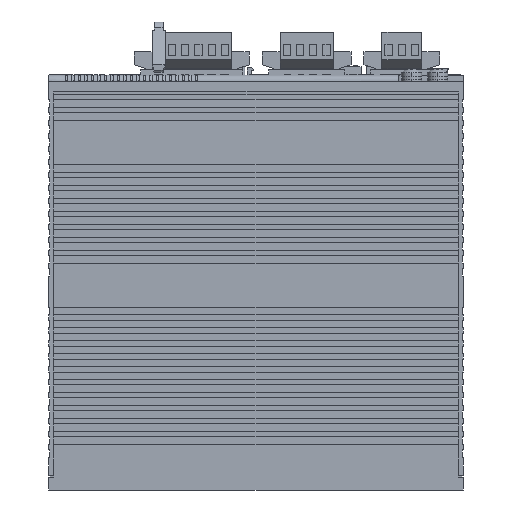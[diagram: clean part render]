
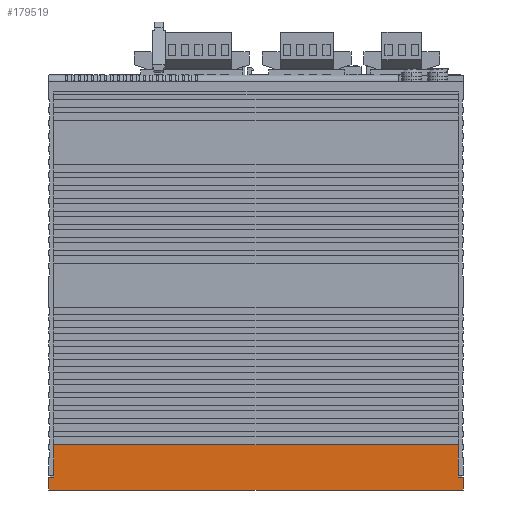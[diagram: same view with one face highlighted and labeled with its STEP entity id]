
A CAD part, left-side view. The second image highlights one B-rep face of the part: STEP entity #179519.
In plain terms, the highlighted planar face has unit normal (-1, 0, 0).
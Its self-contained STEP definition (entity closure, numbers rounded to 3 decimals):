
#104 = EDGE_CURVE ( 'NONE', #145977, #71837, #20181, .T. ) ;
#675 = VECTOR ( 'NONE', #219439, 1000. ) ;
#710 = EDGE_CURVE ( 'NONE', #81122, #100774, #164731, .T. ) ;
#3726 = FACE_OUTER_BOUND ( 'NONE', #70451, .T. ) ;
#3903 = DIRECTION ( 'NONE',  ( 0., 0., 1. ) ) ;
#5584 = DIRECTION ( 'NONE',  ( 0., 0., -1. ) ) ;
#8428 = ORIENTED_EDGE ( 'NONE', *, *, #710, .F. ) ;
#13685 = DIRECTION ( 'NONE',  ( 0., 0., -1. ) ) ;
#18765 = ORIENTED_EDGE ( 'NONE', *, *, #153025, .F. ) ;
#19843 = CARTESIAN_POINT ( 'NONE',  ( -50., 0., 160. ) ) ;
#20181 = LINE ( 'NONE', #162358, #192974 ) ;
#24087 = LINE ( 'NONE', #117281, #196933 ) ;
#25345 = VERTEX_POINT ( 'NONE', #64219 ) ;
#28692 = CARTESIAN_POINT ( 'NONE',  ( -50., -159.5, 5. ) ) ;
#30628 = ORIENTED_EDGE ( 'NONE', *, *, #104, .T. ) ;
#30677 = LINE ( 'NONE', #28692, #214832 ) ;
#37649 = ORIENTED_EDGE ( 'NONE', *, *, #109637, .T. ) ;
#39573 = LINE ( 'NONE', #197705, #45123 ) ;
#45123 = VECTOR ( 'NONE', #142401, 1000. ) ;
#45378 = LINE ( 'NONE', #219108, #156994 ) ;
#54220 = CARTESIAN_POINT ( 'NONE',  ( -50., -160., 0. ) ) ;
#56294 = ORIENTED_EDGE ( 'NONE', *, *, #131429, .F. ) ;
#56340 = DIRECTION ( 'NONE',  ( 0., -1., 0. ) ) ;
#57123 = VERTEX_POINT ( 'NONE', #80671 ) ;
#57528 = CARTESIAN_POINT ( 'NONE',  ( -50., -2., 160. ) ) ;
#64219 = CARTESIAN_POINT ( 'NONE',  ( -50., -2., 17.5 ) ) ;
#64754 = LINE ( 'NONE', #217163, #675 ) ;
#70451 = EDGE_LOOP ( 'NONE', ( #8428, #148981, #179388, #72785, #88295, #37649, #30628, #56294, #205393, #18765 ) ) ;
#71280 = CARTESIAN_POINT ( 'NONE',  ( -50., -158., 17.5 ) ) ;
#71837 = VERTEX_POINT ( 'NONE', #54220 ) ;
#72785 = ORIENTED_EDGE ( 'NONE', *, *, #136625, .F. ) ;
#75930 = DIRECTION ( 'NONE',  ( 0., -1., 0. ) ) ;
#77208 = CARTESIAN_POINT ( 'NONE',  ( -50., -2., 5. ) ) ;
#80671 = CARTESIAN_POINT ( 'NONE',  ( -50., -2., 5.6 ) ) ;
#81122 = VERTEX_POINT ( 'NONE', #71280 ) ;
#81750 = CARTESIAN_POINT ( 'NONE',  ( -50., 0., 5. ) ) ;
#86782 = CARTESIAN_POINT ( 'NONE',  ( -50., -158., 160. ) ) ;
#88295 = ORIENTED_EDGE ( 'NONE', *, *, #93201, .F. ) ;
#93201 = EDGE_CURVE ( 'NONE', #158778, #207036, #24087, .T. ) ;
#100774 = VERTEX_POINT ( 'NONE', #222214 ) ;
#101065 = CARTESIAN_POINT ( 'NONE',  ( -50., -158., 5. ) ) ;
#102757 = EDGE_CURVE ( 'NONE', #138419, #103803, #30677, .T. ) ;
#103803 = VERTEX_POINT ( 'NONE', #197937 ) ;
#105345 = CARTESIAN_POINT ( 'NONE',  ( -50., 0., 0. ) ) ;
#109637 = EDGE_CURVE ( 'NONE', #158778, #145977, #64754, .T. ) ;
#116532 = LINE ( 'NONE', #217882, #186269 ) ;
#117281 = CARTESIAN_POINT ( 'NONE',  ( -50., 0., 5. ) ) ;
#129668 = DIRECTION ( 'NONE',  ( 1., 0., 0. ) ) ;
#131429 = EDGE_CURVE ( 'NONE', #103803, #71837, #39573, .T. ) ;
#135236 = DIRECTION ( 'NONE',  ( 0., -1., 0. ) ) ;
#136625 = EDGE_CURVE ( 'NONE', #207036, #57123, #229969, .T. ) ;
#138419 = VERTEX_POINT ( 'NONE', #101065 ) ;
#142401 = DIRECTION ( 'NONE',  ( 0., 0., -1. ) ) ;
#145977 = VERTEX_POINT ( 'NONE', #105345 ) ;
#148981 = ORIENTED_EDGE ( 'NONE', *, *, #150651, .F. ) ;
#150651 = EDGE_CURVE ( 'NONE', #25345, #81122, #116532, .T. ) ;
#153025 = EDGE_CURVE ( 'NONE', #100774, #138419, #45378, .T. ) ;
#156994 = VECTOR ( 'NONE', #5584, 1000. ) ;
#158778 = VERTEX_POINT ( 'NONE', #81750 ) ;
#162358 = CARTESIAN_POINT ( 'NONE',  ( -50., 0., 0. ) ) ;
#164731 = LINE ( 'NONE', #86782, #167597 ) ;
#167597 = VECTOR ( 'NONE', #13685, 1000. ) ;
#169399 = LINE ( 'NONE', #57528, #216870 ) ;
#179388 = ORIENTED_EDGE ( 'NONE', *, *, #191958, .F. ) ;
#179519 = ADVANCED_FACE ( 'NONE', ( #3726 ), #217786, .F. ) ;
#181121 = DIRECTION ( 'NONE',  ( 0., 1., 0. ) ) ;
#182517 = VECTOR ( 'NONE', #202756, 1000. ) ;
#184429 = CARTESIAN_POINT ( 'NONE',  ( -50., -2., 5. ) ) ;
#186269 = VECTOR ( 'NONE', #75930, 1000. ) ;
#191958 = EDGE_CURVE ( 'NONE', #57123, #25345, #169399, .T. ) ;
#192974 = VECTOR ( 'NONE', #56340, 1000. ) ;
#196933 = VECTOR ( 'NONE', #135236, 1000. ) ;
#197705 = CARTESIAN_POINT ( 'NONE',  ( -50., -160., 160. ) ) ;
#197937 = CARTESIAN_POINT ( 'NONE',  ( -50., -160., 5. ) ) ;
#201837 = AXIS2_PLACEMENT_3D ( 'NONE', #19843, #129668, #181121 ) ;
#202756 = DIRECTION ( 'NONE',  ( 0., 0., 1. ) ) ;
#205393 = ORIENTED_EDGE ( 'NONE', *, *, #102757, .F. ) ;
#207036 = VERTEX_POINT ( 'NONE', #184429 ) ;
#208762 = DIRECTION ( 'NONE',  ( 0., -1., 0. ) ) ;
#214832 = VECTOR ( 'NONE', #208762, 1000. ) ;
#216870 = VECTOR ( 'NONE', #3903, 1000. ) ;
#217163 = CARTESIAN_POINT ( 'NONE',  ( -50., 0., 160. ) ) ;
#217786 = PLANE ( 'NONE',  #201837 ) ;
#217882 = CARTESIAN_POINT ( 'NONE',  ( -50., -2., 17.5 ) ) ;
#219108 = CARTESIAN_POINT ( 'NONE',  ( -50., -158., 5. ) ) ;
#219439 = DIRECTION ( 'NONE',  ( 0., 0., -1. ) ) ;
#222214 = CARTESIAN_POINT ( 'NONE',  ( -50., -158., 5.6 ) ) ;
#229969 = LINE ( 'NONE', #77208, #182517 ) ;
